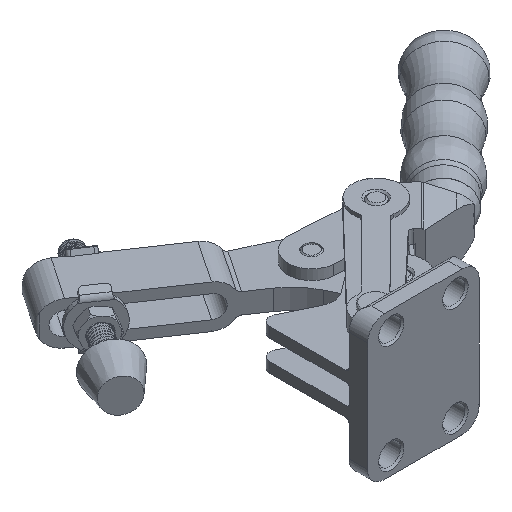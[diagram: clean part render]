
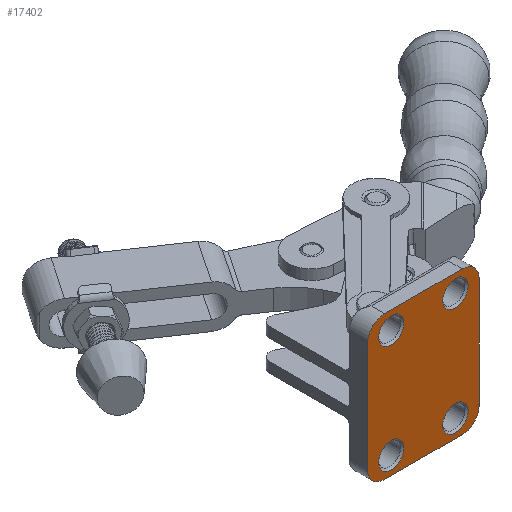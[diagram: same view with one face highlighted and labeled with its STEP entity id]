
A CAD part, isometric view. The second image highlights one B-rep face of the part: STEP entity #17402.
In plain terms, the highlighted planar face has unit normal (0, -1, 0).
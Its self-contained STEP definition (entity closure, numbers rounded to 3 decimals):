
#282=FACE_BOUND('',#2913,.T.);
#283=FACE_BOUND('',#2914,.T.);
#284=FACE_BOUND('',#2915,.T.);
#285=FACE_BOUND('',#2916,.T.);
#985=PLANE('',#18633);
#1906=FACE_OUTER_BOUND('',#2912,.T.);
#2912=EDGE_LOOP('',(#13335,#13336,#13337,#13338,#13339,#13340,#13341,#13342));
#2913=EDGE_LOOP('',(#13343,#13344));
#2914=EDGE_LOOP('',(#13345,#13346));
#2915=EDGE_LOOP('',(#13347,#13348));
#2916=EDGE_LOOP('',(#13349,#13350));
#4144=LINE('',#32702,#5617);
#4147=LINE('',#32710,#5620);
#4151=LINE('',#32719,#5624);
#4153=LINE('',#32725,#5626);
#5617=VECTOR('',#20978,1000.);
#5620=VECTOR('',#20987,1000.);
#5624=VECTOR('',#20997,1000.);
#5626=VECTOR('',#21005,1000.);
#6630=CIRCLE('',#18353,3.75);
#6631=CIRCLE('',#18354,3.75);
#6634=CIRCLE('',#18358,3.75);
#6635=CIRCLE('',#18359,3.75);
#6638=CIRCLE('',#18363,3.75);
#6639=CIRCLE('',#18364,3.75);
#6642=CIRCLE('',#18368,3.75);
#6643=CIRCLE('',#18369,3.75);
#6730=CIRCLE('',#18622,5.);
#6731=CIRCLE('',#18625,5.);
#6732=CIRCLE('',#18628,5.);
#6733=CIRCLE('',#18631,5.);
#7350=VERTEX_POINT('',#24676);
#7351=VERTEX_POINT('',#24678);
#7354=VERTEX_POINT('',#24686);
#7355=VERTEX_POINT('',#24688);
#7358=VERTEX_POINT('',#24696);
#7359=VERTEX_POINT('',#24698);
#7362=VERTEX_POINT('',#24706);
#7363=VERTEX_POINT('',#24708);
#7872=VERTEX_POINT('',#32695);
#7873=VERTEX_POINT('',#32697);
#7874=VERTEX_POINT('',#32701);
#7875=VERTEX_POINT('',#32705);
#7876=VERTEX_POINT('',#32709);
#7877=VERTEX_POINT('',#32713);
#7878=VERTEX_POINT('',#32717);
#7879=VERTEX_POINT('',#32721);
#9130=EDGE_CURVE('',#7350,#7351,#6630,.T.);
#9131=EDGE_CURVE('',#7351,#7350,#6631,.T.);
#9135=EDGE_CURVE('',#7354,#7355,#6634,.T.);
#9136=EDGE_CURVE('',#7355,#7354,#6635,.T.);
#9140=EDGE_CURVE('',#7358,#7359,#6638,.T.);
#9141=EDGE_CURVE('',#7359,#7358,#6639,.T.);
#9145=EDGE_CURVE('',#7362,#7363,#6642,.T.);
#9146=EDGE_CURVE('',#7363,#7362,#6643,.T.);
#9902=EDGE_CURVE('',#7872,#7873,#6730,.T.);
#9904=EDGE_CURVE('',#7873,#7874,#4144,.T.);
#9907=EDGE_CURVE('',#7874,#7875,#6731,.T.);
#9908=EDGE_CURVE('',#7875,#7876,#4147,.T.);
#9910=EDGE_CURVE('',#7876,#7877,#6732,.T.);
#9913=EDGE_CURVE('',#7877,#7878,#4151,.T.);
#9915=EDGE_CURVE('',#7878,#7879,#6733,.T.);
#9916=EDGE_CURVE('',#7879,#7872,#4153,.T.);
#13335=ORIENTED_EDGE('',*,*,#9915,.F.);
#13336=ORIENTED_EDGE('',*,*,#9913,.F.);
#13337=ORIENTED_EDGE('',*,*,#9910,.F.);
#13338=ORIENTED_EDGE('',*,*,#9908,.F.);
#13339=ORIENTED_EDGE('',*,*,#9907,.F.);
#13340=ORIENTED_EDGE('',*,*,#9904,.F.);
#13341=ORIENTED_EDGE('',*,*,#9902,.F.);
#13342=ORIENTED_EDGE('',*,*,#9916,.F.);
#13343=ORIENTED_EDGE('',*,*,#9131,.F.);
#13344=ORIENTED_EDGE('',*,*,#9130,.F.);
#13345=ORIENTED_EDGE('',*,*,#9136,.F.);
#13346=ORIENTED_EDGE('',*,*,#9135,.F.);
#13347=ORIENTED_EDGE('',*,*,#9141,.F.);
#13348=ORIENTED_EDGE('',*,*,#9140,.F.);
#13349=ORIENTED_EDGE('',*,*,#9146,.F.);
#13350=ORIENTED_EDGE('',*,*,#9145,.F.);
#17402=ADVANCED_FACE('',(#1906,#282,#283,#284,#285),#985,.F.);
#18353=AXIS2_PLACEMENT_3D('',#24679,#19975,#19976);
#18354=AXIS2_PLACEMENT_3D('',#24680,#19977,#19978);
#18358=AXIS2_PLACEMENT_3D('',#24689,#19986,#19987);
#18359=AXIS2_PLACEMENT_3D('',#24690,#19988,#19989);
#18363=AXIS2_PLACEMENT_3D('',#24699,#19997,#19998);
#18364=AXIS2_PLACEMENT_3D('',#24700,#19999,#20000);
#18368=AXIS2_PLACEMENT_3D('',#24709,#20008,#20009);
#18369=AXIS2_PLACEMENT_3D('',#24710,#20010,#20011);
#18622=AXIS2_PLACEMENT_3D('',#32698,#20973,#20974);
#18625=AXIS2_PLACEMENT_3D('',#32707,#20983,#20984);
#18628=AXIS2_PLACEMENT_3D('',#32714,#20991,#20992);
#18631=AXIS2_PLACEMENT_3D('',#32723,#21001,#21002);
#18633=AXIS2_PLACEMENT_3D('',#32726,#21006,#21007);
#19975=DIRECTION('center_axis',(0.,-1.,0.));
#19976=DIRECTION('ref_axis',(0.,0.,-1.));
#19977=DIRECTION('center_axis',(0.,-1.,0.));
#19978=DIRECTION('ref_axis',(0.,0.,-1.));
#19986=DIRECTION('center_axis',(0.,-1.,0.));
#19987=DIRECTION('ref_axis',(0.,0.,-1.));
#19988=DIRECTION('center_axis',(0.,-1.,0.));
#19989=DIRECTION('ref_axis',(0.,0.,-1.));
#19997=DIRECTION('center_axis',(0.,-1.,0.));
#19998=DIRECTION('ref_axis',(0.,0.,-1.));
#19999=DIRECTION('center_axis',(0.,-1.,0.));
#20000=DIRECTION('ref_axis',(0.,0.,-1.));
#20008=DIRECTION('center_axis',(0.,-1.,0.));
#20009=DIRECTION('ref_axis',(0.,0.,-1.));
#20010=DIRECTION('center_axis',(0.,-1.,0.));
#20011=DIRECTION('ref_axis',(0.,0.,-1.));
#20973=DIRECTION('center_axis',(0.,1.,0.));
#20974=DIRECTION('ref_axis',(0.,0.,-1.));
#20978=DIRECTION('',(0.,0.,1.));
#20983=DIRECTION('center_axis',(0.,1.,0.));
#20984=DIRECTION('ref_axis',(0.,0.,-1.));
#20987=DIRECTION('',(1.,0.,0.));
#20991=DIRECTION('center_axis',(0.,1.,0.));
#20992=DIRECTION('ref_axis',(0.,0.,-1.));
#20997=DIRECTION('',(0.,0.,-1.));
#21001=DIRECTION('center_axis',(0.,1.,0.));
#21002=DIRECTION('ref_axis',(0.,0.,-1.));
#21005=DIRECTION('',(-1.,0.,0.));
#21006=DIRECTION('center_axis',(0.,1.,0.));
#21007=DIRECTION('ref_axis',(0.,0.,1.));
#24676=CARTESIAN_POINT('',(1824.979,-4122.608,41.));
#24678=CARTESIAN_POINT('',(1824.979,-4122.608,33.5));
#24679=CARTESIAN_POINT('Origin',(1824.979,-4122.608,37.25));
#24680=CARTESIAN_POINT('Origin',(1824.979,-4122.608,37.25));
#24686=CARTESIAN_POINT('',(1805.979,-4122.608,41.));
#24688=CARTESIAN_POINT('',(1805.979,-4122.608,33.5));
#24689=CARTESIAN_POINT('Origin',(1805.979,-4122.608,37.25));
#24690=CARTESIAN_POINT('Origin',(1805.979,-4122.608,37.25));
#24696=CARTESIAN_POINT('',(1824.979,-4122.608,9.));
#24698=CARTESIAN_POINT('',(1824.979,-4122.608,1.5));
#24699=CARTESIAN_POINT('Origin',(1824.979,-4122.608,5.25));
#24700=CARTESIAN_POINT('Origin',(1824.979,-4122.608,5.25));
#24706=CARTESIAN_POINT('',(1805.979,-4122.608,9.));
#24708=CARTESIAN_POINT('',(1805.979,-4122.608,1.5));
#24709=CARTESIAN_POINT('Origin',(1805.979,-4122.608,5.25));
#24710=CARTESIAN_POINT('Origin',(1805.979,-4122.608,5.25));
#32695=CARTESIAN_POINT('',(1803.979,-4122.608,0.));
#32697=CARTESIAN_POINT('',(1798.979,-4122.608,5.));
#32698=CARTESIAN_POINT('Origin',(1803.979,-4122.608,5.));
#32701=CARTESIAN_POINT('',(1798.979,-4122.608,37.5));
#32702=CARTESIAN_POINT('',(1798.979,-4122.608,42.5));
#32705=CARTESIAN_POINT('',(1803.979,-4122.608,42.5));
#32707=CARTESIAN_POINT('Origin',(1803.979,-4122.608,37.5));
#32709=CARTESIAN_POINT('',(1826.979,-4122.608,42.5));
#32710=CARTESIAN_POINT('',(1818.175,-4122.608,42.5));
#32713=CARTESIAN_POINT('',(1831.979,-4122.608,37.5));
#32714=CARTESIAN_POINT('Origin',(1826.979,-4122.608,37.5));
#32717=CARTESIAN_POINT('',(1831.979,-4122.608,5.));
#32719=CARTESIAN_POINT('',(1831.979,-4122.608,42.5));
#32721=CARTESIAN_POINT('',(1826.979,-4122.608,0.));
#32723=CARTESIAN_POINT('Origin',(1826.979,-4122.608,5.));
#32725=CARTESIAN_POINT('',(1818.175,-4122.608,0.));
#32726=CARTESIAN_POINT('Origin',(1818.175,-4122.608,42.5));
